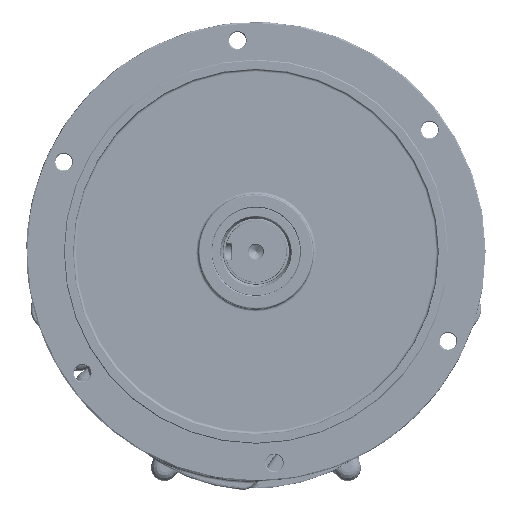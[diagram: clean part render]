
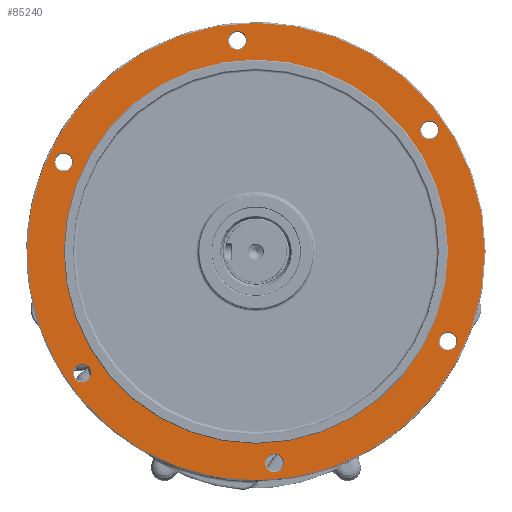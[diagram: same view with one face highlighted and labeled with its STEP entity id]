
A CAD part, front view. The second image highlights one B-rep face of the part: STEP entity #85240.
In plain terms, the highlighted planar face has unit normal (0, -1, 0).
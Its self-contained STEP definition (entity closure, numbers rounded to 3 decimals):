
#6462=FACE_BOUND('',#16143,.T.);
#6463=FACE_BOUND('',#16144,.T.);
#6464=FACE_BOUND('',#16145,.T.);
#6465=FACE_BOUND('',#16146,.T.);
#6466=FACE_BOUND('',#16147,.T.);
#6467=FACE_BOUND('',#16148,.T.);
#6468=FACE_BOUND('',#16149,.T.);
#7335=PLANE('',#92637);
#10886=FACE_OUTER_BOUND('',#16142,.T.);
#16142=EDGE_LOOP('',(#64928));
#16143=EDGE_LOOP('',(#64929));
#16144=EDGE_LOOP('',(#64930));
#16145=EDGE_LOOP('',(#64931));
#16146=EDGE_LOOP('',(#64932));
#16147=EDGE_LOOP('',(#64933));
#16148=EDGE_LOOP('',(#64934));
#16149=EDGE_LOOP('',(#64935));
#30109=CIRCLE('',#92634,10.5);
#30112=CIRCLE('',#92638,259.);
#30113=CIRCLE('',#92639,10.5);
#30114=CIRCLE('',#92640,10.5);
#30115=CIRCLE('',#92641,10.5);
#30116=CIRCLE('',#92642,217.5);
#30117=CIRCLE('',#92643,10.5);
#30118=CIRCLE('',#92644,10.5);
#35551=VERTEX_POINT('',#176197);
#35554=VERTEX_POINT('',#176205);
#35555=VERTEX_POINT('',#176207);
#35556=VERTEX_POINT('',#176209);
#35557=VERTEX_POINT('',#176211);
#35558=VERTEX_POINT('',#176213);
#35559=VERTEX_POINT('',#176215);
#35560=VERTEX_POINT('',#176217);
#45863=EDGE_CURVE('',#35551,#35551,#30109,.T.);
#45867=EDGE_CURVE('',#35554,#35554,#30112,.T.);
#45868=EDGE_CURVE('',#35555,#35555,#30113,.T.);
#45869=EDGE_CURVE('',#35556,#35556,#30114,.T.);
#45870=EDGE_CURVE('',#35557,#35557,#30115,.T.);
#45871=EDGE_CURVE('',#35558,#35558,#30116,.T.);
#45872=EDGE_CURVE('',#35559,#35559,#30117,.T.);
#45873=EDGE_CURVE('',#35560,#35560,#30118,.T.);
#64928=ORIENTED_EDGE('',*,*,#45867,.F.);
#64929=ORIENTED_EDGE('',*,*,#45868,.F.);
#64930=ORIENTED_EDGE('',*,*,#45869,.F.);
#64931=ORIENTED_EDGE('',*,*,#45870,.F.);
#64932=ORIENTED_EDGE('',*,*,#45871,.F.);
#64933=ORIENTED_EDGE('',*,*,#45872,.F.);
#64934=ORIENTED_EDGE('',*,*,#45873,.F.);
#64935=ORIENTED_EDGE('',*,*,#45863,.F.);
#85240=ADVANCED_FACE('',(#10886,#6462,#6463,#6464,#6465,#6466,#6467,#6468),
#7335,.T.);
#92634=AXIS2_PLACEMENT_3D('',#176198,#107736,#107737);
#92637=AXIS2_PLACEMENT_3D('',#176204,#107743,#107744);
#92638=AXIS2_PLACEMENT_3D('',#176206,#107745,#107746);
#92639=AXIS2_PLACEMENT_3D('',#176208,#107747,#107748);
#92640=AXIS2_PLACEMENT_3D('',#176210,#107749,#107750);
#92641=AXIS2_PLACEMENT_3D('',#176212,#107751,#107752);
#92642=AXIS2_PLACEMENT_3D('',#176214,#107753,#107754);
#92643=AXIS2_PLACEMENT_3D('',#176216,#107755,#107756);
#92644=AXIS2_PLACEMENT_3D('',#176218,#107757,#107758);
#107736=DIRECTION('center_axis',(0.,-1.,0.));
#107737=DIRECTION('ref_axis',(-0.5,0.,-0.866));
#107743=DIRECTION('center_axis',(0.,-1.,0.));
#107744=DIRECTION('ref_axis',(0.,0.,-1.));
#107745=DIRECTION('center_axis',(0.,1.,0.));
#107746=DIRECTION('ref_axis',(-1.,0.,0.));
#107747=DIRECTION('center_axis',(0.,-1.,0.));
#107748=DIRECTION('ref_axis',(0.5,0.,-0.866));
#107749=DIRECTION('center_axis',(0.,-1.,0.));
#107750=DIRECTION('ref_axis',(0.5,0.,0.866));
#107751=DIRECTION('center_axis',(0.,-1.,0.));
#107752=DIRECTION('ref_axis',(-1.,0.,0.));
#107753=DIRECTION('center_axis',(0.,-1.,0.));
#107754=DIRECTION('ref_axis',(-1.,0.,0.));
#107755=DIRECTION('center_axis',(0.,-1.,0.));
#107756=DIRECTION('ref_axis',(-0.5,0.,0.866));
#107757=DIRECTION('center_axis',(0.,-1.,0.));
#107758=DIRECTION('ref_axis',(1.,0.,0.));
#176197=CARTESIAN_POINT('',(-212.035,-235.728,173.772));
#176198=CARTESIAN_POINT('Origin',(-217.285,-235.728,164.678));
#176204=CARTESIAN_POINT('Origin',(0.228,-235.728,63.252));
#176205=CARTESIAN_POINT('',(259.228,-235.728,63.25));
#176206=CARTESIAN_POINT('Origin',(0.228,-235.728,63.25));
#176207=CARTESIAN_POINT('',(-201.618,-235.728,-65.315));
#176208=CARTESIAN_POINT('Origin',(-196.368,-235.728,-74.408));
#176209=CARTESIAN_POINT('',(212.492,-235.728,-47.272));
#176210=CARTESIAN_POINT('Origin',(217.742,-235.728,-38.178));
#176211=CARTESIAN_POINT('',(-10.189,-235.728,302.337));
#176212=CARTESIAN_POINT('Origin',(-20.689,-235.728,302.337));
#176213=CARTESIAN_POINT('',(217.728,-235.728,63.25));
#176214=CARTESIAN_POINT('Origin',(0.228,-235.728,63.25));
#176215=CARTESIAN_POINT('',(202.075,-235.728,191.815));
#176216=CARTESIAN_POINT('Origin',(196.825,-235.728,200.908));
#176217=CARTESIAN_POINT('',(10.646,-235.728,-175.837));
#176218=CARTESIAN_POINT('Origin',(21.146,-235.728,-175.837));
